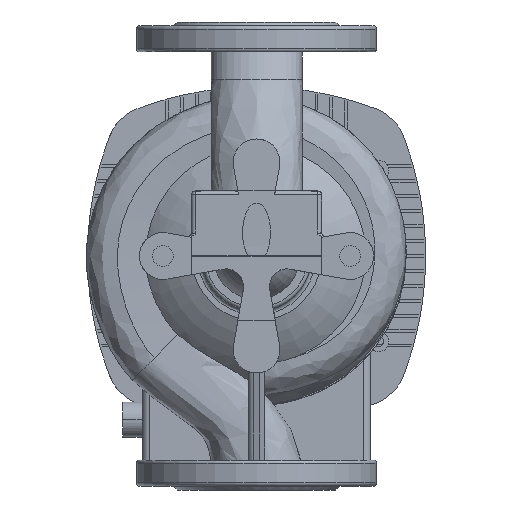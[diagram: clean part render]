
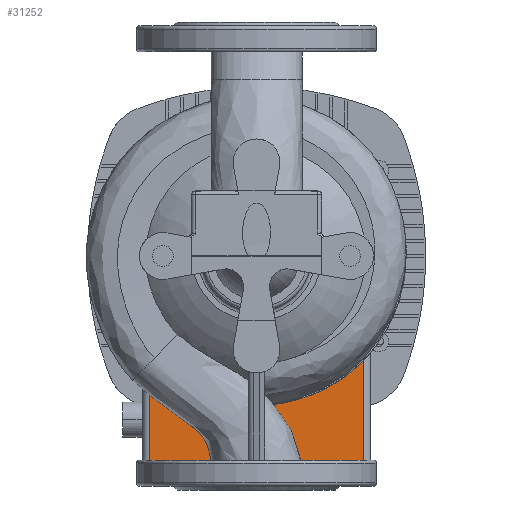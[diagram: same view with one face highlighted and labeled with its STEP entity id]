
A CAD part, front view. The second image highlights one B-rep face of the part: STEP entity #31252.
In plain terms, the highlighted planar face has unit normal (0, -1, 0).
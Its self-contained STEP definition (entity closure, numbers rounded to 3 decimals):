
#136 = CARTESIAN_POINT ( 'NONE',  ( 0., 284.5, 443. ) ) ;
#1874 = CARTESIAN_POINT ( 'NONE',  ( -68., 284.5, -128.5 ) ) ;
#5504 = AXIS2_PLACEMENT_3D ( 'NONE', #33023, #29399, #28891 ) ;
#6557 = DIRECTION ( 'NONE',  ( 0., 0., -1. ) ) ;
#7273 = EDGE_CURVE ( 'NONE', #27654, #8364, #17812, .T. ) ;
#7500 = CARTESIAN_POINT ( 'NONE',  ( 0., 284.5, -164. ) ) ;
#7575 = LINE ( 'NONE', #45019, #24695 ) ;
#7871 = CARTESIAN_POINT ( 'NONE',  ( -82., 284.5, -158.436 ) ) ;
#8364 = VERTEX_POINT ( 'NONE', #7500 ) ;
#8504 = ORIENTED_EDGE ( 'NONE', *, *, #21877, .T. ) ;
#10174 = DIRECTION ( 'NONE',  ( 0., 1., 0. ) ) ;
#10741 = CARTESIAN_POINT ( 'NONE',  ( -82., 284.5, -72.569 ) ) ;
#13668 = CARTESIAN_POINT ( 'NONE',  ( 82., 284.5, -72.569 ) ) ;
#14062 = CARTESIAN_POINT ( 'NONE',  ( 0., 284.5, 0. ) ) ;
#14283 = CARTESIAN_POINT ( 'NONE',  ( 82., 284.5, -158.436 ) ) ;
#17812 = CIRCLE ( 'NONE', #18604, 607. ) ;
#18516 = ORIENTED_EDGE ( 'NONE', *, *, #50136, .T. ) ;
#18604 = AXIS2_PLACEMENT_3D ( 'NONE', #136, #20216, #19966 ) ;
#19966 = DIRECTION ( 'NONE',  ( 0., 0., 1. ) ) ;
#20216 = DIRECTION ( 'NONE',  ( 0., -1., 0. ) ) ;
#20407 = CIRCLE ( 'NONE', #26971, 109.5 ) ;
#21877 = EDGE_CURVE ( 'NONE', #27545, #27654, #7575, .T. ) ;
#23653 = CARTESIAN_POINT ( 'NONE',  ( 82., 284.5, -128.5 ) ) ;
#24695 = VECTOR ( 'NONE', #6557, 1000. ) ;
#26971 = AXIS2_PLACEMENT_3D ( 'NONE', #14062, #10174, #44467 ) ;
#27545 = VERTEX_POINT ( 'NONE', #10741 ) ;
#27654 = VERTEX_POINT ( 'NONE', #7871 ) ;
#28513 = CIRCLE ( 'NONE', #5504, 607. ) ;
#28891 = DIRECTION ( 'NONE',  ( 0., 0., 1. ) ) ;
#29399 = DIRECTION ( 'NONE',  ( 0., -1., 0. ) ) ;
#29513 = VERTEX_POINT ( 'NONE', #13668 ) ;
#31252 = ADVANCED_FACE ( 'NONE', ( #37402 ), #34292, .T. ) ;
#33023 = CARTESIAN_POINT ( 'NONE',  ( 0., 284.5, 443. ) ) ;
#33392 = EDGE_CURVE ( 'NONE', #45976, #29513, #42482, .T. ) ;
#34292 = PLANE ( 'NONE',  #37200 ) ;
#34456 = ORIENTED_EDGE ( 'NONE', *, *, #33392, .T. ) ;
#37200 = AXIS2_PLACEMENT_3D ( 'NONE', #1874, #37916, #41800 ) ;
#37402 = FACE_OUTER_BOUND ( 'NONE', #40028, .T. ) ;
#37916 = DIRECTION ( 'NONE',  ( 0., -1., 0. ) ) ;
#39377 = DIRECTION ( 'NONE',  ( 0., 0., 1. ) ) ;
#40028 = EDGE_LOOP ( 'NONE', ( #40736, #8504, #43006, #18516, #34456 ) ) ;
#40736 = ORIENTED_EDGE ( 'NONE', *, *, #48399, .T. ) ;
#41800 = DIRECTION ( 'NONE',  ( 0., 0., 1. ) ) ;
#42482 = LINE ( 'NONE', #23653, #47814 ) ;
#43006 = ORIENTED_EDGE ( 'NONE', *, *, #7273, .T. ) ;
#44467 = DIRECTION ( 'NONE',  ( -1., 0., 0. ) ) ;
#45019 = CARTESIAN_POINT ( 'NONE',  ( -82., 284.5, -128.5 ) ) ;
#45976 = VERTEX_POINT ( 'NONE', #14283 ) ;
#47814 = VECTOR ( 'NONE', #39377, 1000. ) ;
#48399 = EDGE_CURVE ( 'NONE', #29513, #27545, #20407, .T. ) ;
#50136 = EDGE_CURVE ( 'NONE', #8364, #45976, #28513, .T. ) ;
